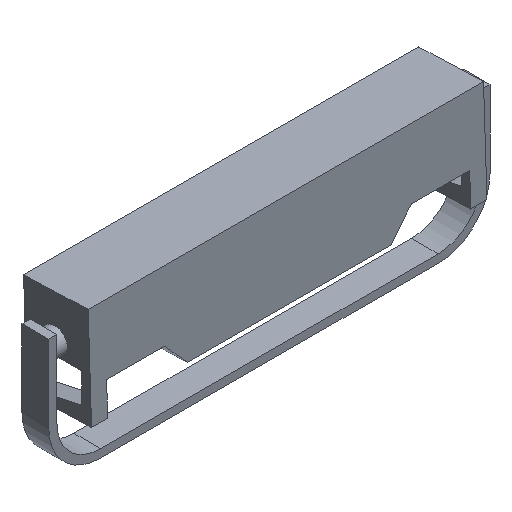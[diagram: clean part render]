
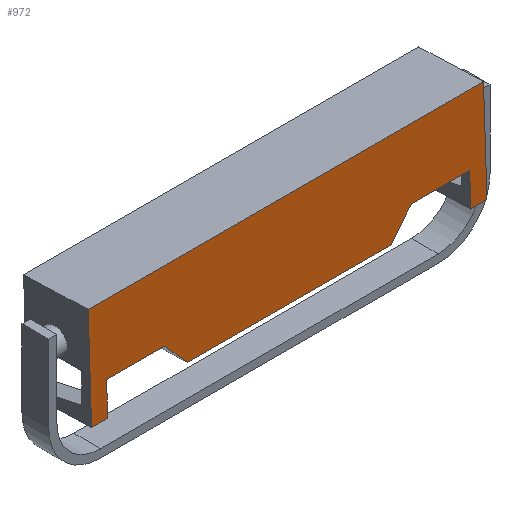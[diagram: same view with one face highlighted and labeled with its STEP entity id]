
A CAD part, isometric view. The second image highlights one B-rep face of the part: STEP entity #972.
In plain terms, the highlighted planar face has unit normal (0, -0.999, 0.035).
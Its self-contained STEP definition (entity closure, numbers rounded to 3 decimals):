
#58=LINE('',#1451,#180);
#59=LINE('',#1453,#181);
#60=LINE('',#1455,#182);
#61=LINE('',#1457,#183);
#62=LINE('',#1459,#184);
#63=LINE('',#1461,#185);
#64=LINE('',#1463,#186);
#65=LINE('',#1465,#187);
#66=LINE('',#1467,#188);
#67=LINE('',#1469,#189);
#68=LINE('',#1471,#190);
#69=LINE('',#1472,#191);
#180=VECTOR('',#1192,10.);
#181=VECTOR('',#1193,10.);
#182=VECTOR('',#1194,10.);
#183=VECTOR('',#1195,10.);
#184=VECTOR('',#1196,10.);
#185=VECTOR('',#1197,10.);
#186=VECTOR('',#1198,10.);
#187=VECTOR('',#1199,10.);
#188=VECTOR('',#1200,10.);
#189=VECTOR('',#1201,10.);
#190=VECTOR('',#1202,10.);
#191=VECTOR('',#1203,10.);
#296=FACE_OUTER_BOUND('',#349,.T.);
#349=EDGE_LOOP('',(#666,#667,#668,#669,#670,#671,#672,#673,#674,#675,#676,
#677));
#424=VERTEX_POINT('',#1449);
#425=VERTEX_POINT('',#1450);
#426=VERTEX_POINT('',#1452);
#427=VERTEX_POINT('',#1454);
#428=VERTEX_POINT('',#1456);
#429=VERTEX_POINT('',#1458);
#430=VERTEX_POINT('',#1460);
#431=VERTEX_POINT('',#1462);
#432=VERTEX_POINT('',#1464);
#433=VERTEX_POINT('',#1466);
#434=VERTEX_POINT('',#1468);
#435=VERTEX_POINT('',#1470);
#520=EDGE_CURVE('',#424,#425,#58,.T.);
#521=EDGE_CURVE('',#425,#426,#59,.T.);
#522=EDGE_CURVE('',#426,#427,#60,.T.);
#523=EDGE_CURVE('',#427,#428,#61,.T.);
#524=EDGE_CURVE('',#428,#429,#62,.T.);
#525=EDGE_CURVE('',#429,#430,#63,.T.);
#526=EDGE_CURVE('',#430,#431,#64,.T.);
#527=EDGE_CURVE('',#432,#431,#65,.T.);
#528=EDGE_CURVE('',#433,#432,#66,.T.);
#529=EDGE_CURVE('',#434,#433,#67,.T.);
#530=EDGE_CURVE('',#435,#434,#68,.T.);
#531=EDGE_CURVE('',#424,#435,#69,.T.);
#666=ORIENTED_EDGE('',*,*,#520,.T.);
#667=ORIENTED_EDGE('',*,*,#521,.T.);
#668=ORIENTED_EDGE('',*,*,#522,.T.);
#669=ORIENTED_EDGE('',*,*,#523,.T.);
#670=ORIENTED_EDGE('',*,*,#524,.T.);
#671=ORIENTED_EDGE('',*,*,#525,.T.);
#672=ORIENTED_EDGE('',*,*,#526,.T.);
#673=ORIENTED_EDGE('',*,*,#527,.F.);
#674=ORIENTED_EDGE('',*,*,#528,.F.);
#675=ORIENTED_EDGE('',*,*,#529,.F.);
#676=ORIENTED_EDGE('',*,*,#530,.F.);
#677=ORIENTED_EDGE('',*,*,#531,.F.);
#927=PLANE('',#1101);
#972=ADVANCED_FACE('',(#296),#927,.T.);
#1101=AXIS2_PLACEMENT_3D('',#1448,#1190,#1191);
#1190=DIRECTION('center_axis',(0.,-0.999,0.035));
#1191=DIRECTION('ref_axis',(1.,0.,-0.001));
#1192=DIRECTION('',(1.,0.,-0.001));
#1193=DIRECTION('',(0.665,0.026,0.746));
#1194=DIRECTION('',(1.,0.,-0.001));
#1195=DIRECTION('',(0.001,-0.035,-0.999));
#1196=DIRECTION('',(1.,0.,0.001));
#1197=DIRECTION('',(0.001,0.035,0.999));
#1198=DIRECTION('',(-1.,0.,0.001));
#1199=DIRECTION('',(0.001,0.035,0.999));
#1200=DIRECTION('',(-1.,0.,0.003));
#1201=DIRECTION('',(-0.003,-0.035,-0.999));
#1202=DIRECTION('',(-1.,0.,0.001));
#1203=DIRECTION('',(-0.664,0.026,0.747));
#1448=CARTESIAN_POINT('Origin',(175.547,-63.972,-12.453));
#1449=CARTESIAN_POINT('',(-192.359,-66.653,-88.95));
#1450=CARTESIAN_POINT('',(179.929,-66.653,-89.214));
#1451=CARTESIAN_POINT('',(-10.363,-66.653,-89.079));
#1452=CARTESIAN_POINT('',(219.908,-65.086,-44.385));
#1453=CARTESIAN_POINT('',(179.929,-66.653,-89.214));
#1454=CARTESIAN_POINT('',(326.352,-65.086,-44.46));
#1455=CARTESIAN_POINT('',(219.908,-65.086,-44.385));
#1456=CARTESIAN_POINT('',(326.42,-67.189,-104.684));
#1457=CARTESIAN_POINT('',(326.42,-67.189,-104.684));
#1458=CARTESIAN_POINT('',(355.918,-67.187,-104.651));
#1459=CARTESIAN_POINT('',(356.066,-67.187,-104.651));
#1460=CARTESIAN_POINT('',(356.048,-60.758,79.461));
#1461=CARTESIAN_POINT('',(355.968,-64.715,-33.854));
#1462=CARTESIAN_POINT('',(-368.238,-60.752,80.141));
#1463=CARTESIAN_POINT('',(-4.934,-60.755,79.8));
#1464=CARTESIAN_POINT('',(-368.453,-67.182,-103.971));
#1465=CARTESIAN_POINT('',(-368.37,-64.709,-33.175));
#1466=CARTESIAN_POINT('',(-338.955,-67.184,-104.059));
#1467=CARTESIAN_POINT('',(-368.601,-67.182,-103.97));
#1468=CARTESIAN_POINT('',(-338.774,-65.081,-43.836));
#1469=CARTESIAN_POINT('',(-338.955,-67.184,-104.059));
#1470=CARTESIAN_POINT('',(-232.331,-65.083,-43.96));
#1471=CARTESIAN_POINT('',(-232.331,-65.083,-43.96));
#1472=CARTESIAN_POINT('',(-192.436,-66.65,-88.864));
